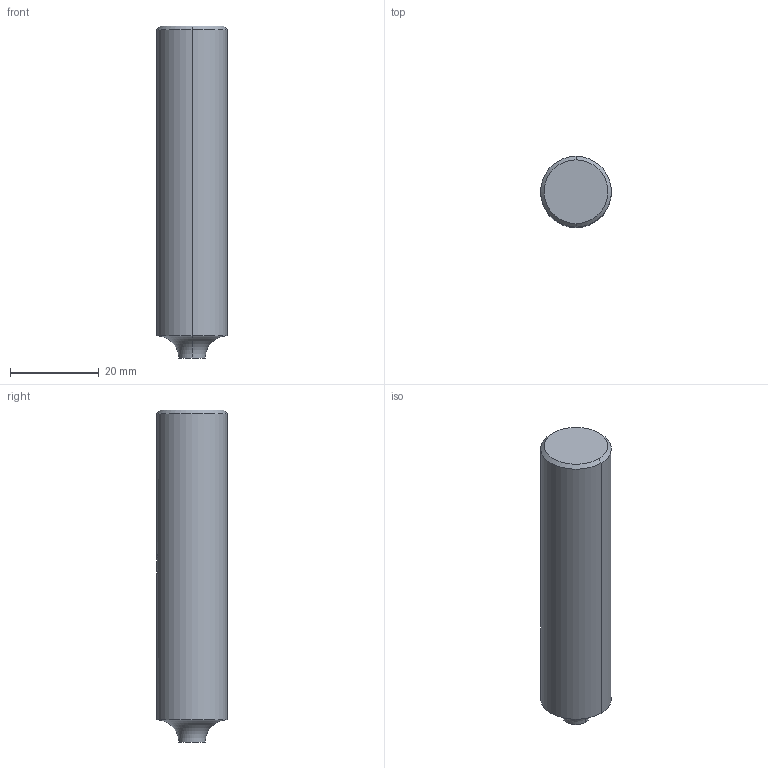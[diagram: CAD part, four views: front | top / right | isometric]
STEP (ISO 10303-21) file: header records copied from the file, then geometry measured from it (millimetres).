
FILE_DESCRIPTION(('no description'),'unknown implementation level');
FILE_NAME('solidPhx9zewbn3PpEtmxGXrpDz3QuDM_1.STP',' ',('CIMSOURCE GmbH'),('CADClick - KiM GmbH - www.kimweb.de'),'unknown preprocess','ACIS','unknown authorization');
FILE_SCHEMA(('automotive_design'));
Length unit declared in the file: millimetre
Products named in the file (2): NOCUT; CUT
Bounding box: 16 x 16 x 75 mm (x, y, z)
Volume: 14337.7 mm3; surface area: 4488.4 mm2
Topology: 2 solids, 2 shells, 31 faces, 76 edges, 49 vertices
Faces by surface type: cylinder 14, plane 9, cone 6, torus 2
Entity records: 2114 total; most frequent: CARTESIAN_POINT 442, DIRECTION 167, STYLED_ITEM 158, PRESENTATION_STYLE_ASSIGNMENT 158, COLOUR_RGB 158, ORIENTED_EDGE 152, EDGE_CURVE 76, CURVE_STYLE 76
